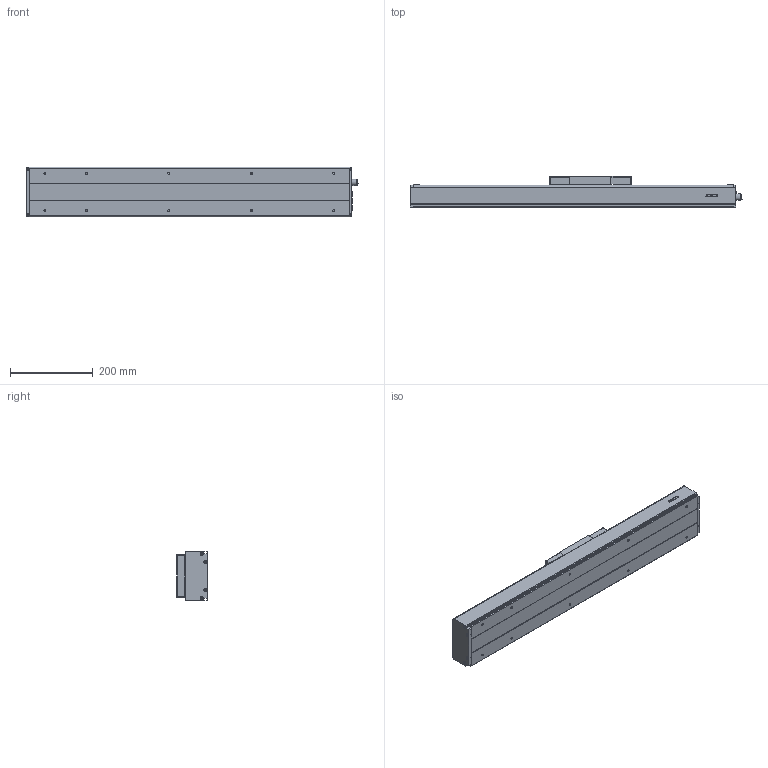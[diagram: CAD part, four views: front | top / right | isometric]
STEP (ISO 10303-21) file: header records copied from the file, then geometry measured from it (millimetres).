
FILE_DESCRIPTION(/* description */ (''),/* implementation_level */ '2;1');
FILE_NAME(/* name */ 'D:\混合母檔20191031\混和母檔\混和母檔\bin\Debug\Download\3D\KS120-5C-300AFI\KS120-5C-300AFI.stp',/* time_stamp */ '2019-11-04T14:56:54+08:00',/* author */ ('user'),/* organization */ (''),/* preprocessor_version */ 'ST-DEVELOPER v16.13',/* originating_system */ 'Autodesk Inventor 2018',/* authorisation */ '');
FILE_SCHEMA (('CONFIG_CONTROL_DESIGN','AUTOMOTIVE_DESIGN { 1 0 10303 214 3 1 1 }'));
Length unit declared in the file: millimetre
Products named in the file (3): KS120-5C-300AFI; KS120-FI; KS120-SL
Assembly tree (2 placements, depth 2):
  KS120-5C-300AFI
    KS120-FI
    KS120-SL
Bounding box: 804.5 x 77 x 120 mm (x, y, z)
Volume: 2057432.6 mm3; surface area: 656369.7 mm2
Topology: 4 solids, 11 shells, 991 faces, 2539 edges, 1638 vertices
Faces by surface type: plane 575, cylinder 184, bspline 136, cone 78, torus 14, sphere 4
Full cylindrical faces by diameter (mm): 2.459 x6, 3.242 x4, 4 x32, 4.3 x4, 4.5 x12, 4.917 x10, 6 x6, 7 x4, 8 x9, 8.4 x12, 10.437 x1, 12 x2, 14 x1, 15 x1, 15.538 x1, 19 x1, 28 x1, 30 x1
Entity records: 32873 total; most frequent: CARTESIAN_POINT 10590, ORIENTED_EDGE 4538, DIRECTION 4145, EDGE_CURVE 2267, VERTEX_POINT 1558, LINE 1525, VECTOR 1525, AXIS2_PLACEMENT_3D 1310
